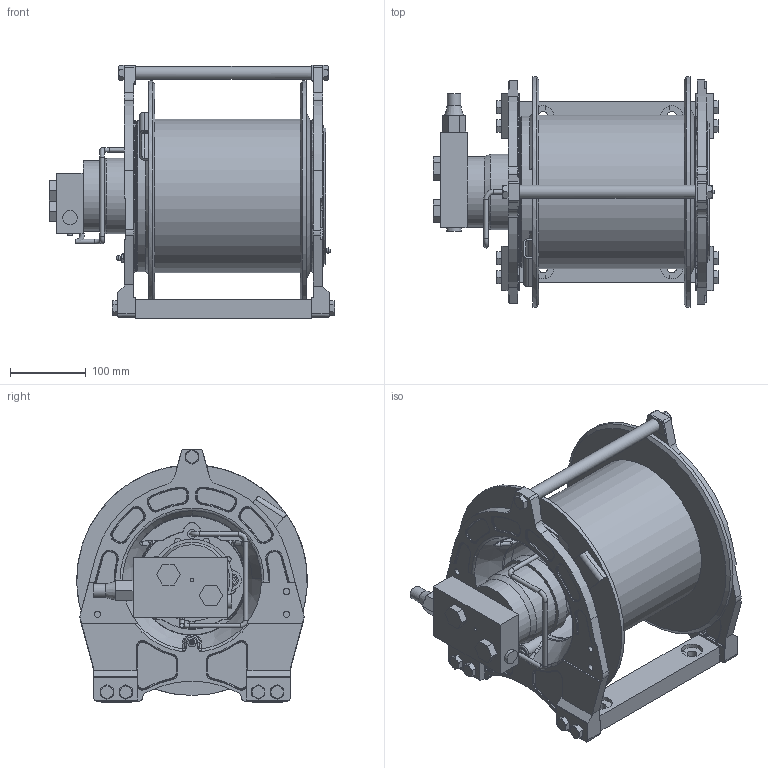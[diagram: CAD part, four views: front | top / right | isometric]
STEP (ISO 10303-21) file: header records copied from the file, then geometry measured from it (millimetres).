
FILE_DESCRIPTION(/* description */ ('STEP AP203'),/* implementation_level */ '2;1');
FILE_NAME(/* name */ 'X:\Argani-Motori\FILE_3D\3D da studio esterno\P\P9 - P9E\P9_STANDARD.stp',/* time_stamp */ '2019-01-11T15:04:29+01:00',/* author */ ('s.caputo'),/* organization */ (''),/* preprocessor_version */ 'ST-DEVELOPER v17',/* originating_system */ 'Autodesk Inventor 2018',/* authorisation */ '');
FILE_SCHEMA (('AUTOMOTIVE_DESIGN { 1 0 10303 214 3 1 1 }'));
Length unit declared in the file: millimetre
Products named in the file (5): P9_con_PRESSACAVO_TOP; Part7^P9-E_con_OMR200; MOTORE_OMR200-25; VALVOLA_OWC-40-SE-FCB-OMR-P-12-18-14; P9-E_con_OMR200
Assembly tree (4 placements, depth 2):
  P9_con_PRESSACAVO_TOP
    Part7^P9-E_con_OMR200
    MOTORE_OMR200-25
    VALVOLA_OWC-40-SE-FCB-OMR-P-12-18-14
    P9-E_con_OMR200
Bounding box: 377.25 x 305 x 335.01 mm (x, y, z)
Volume: 7312433.7 mm3; surface area: 1209862.6 mm2
Topology: 25 solids, 25 shells, 2004 faces, 5531 edges, 3707 vertices
Faces by surface type: plane 738, bspline 572, cylinder 350, torus 238, cone 94, sphere 12
Full cylindrical faces by diameter (mm): 4 x2, 4.361 x1, 6 x6, 7.001 x2, 8 x9, 8.182 x4, 9.7 x1, 9.73 x1, 10 x28, 11 x10, 12 x3, 13 x4, 13.5 x2, 16 x2, 17 x1, 18 x1, 19 x1, 20 x1, 29 x4, 73 x1, 80.5 x1, 81 x1, 82.5 x2, 93.5 x1, 94 x1, 100 x1, 108.5 x1, 159 x1, 170 x1, 175 x1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
Entity records: 105101 total; most frequent: CARTESIAN_POINT 55749, ORIENTED_EDGE 11046, DIRECTION 9229, EDGE_CURVE 5523, VERTEX_POINT 3707, AXIS2_PLACEMENT_3D 3411, LINE 2407, VECTOR 2407
